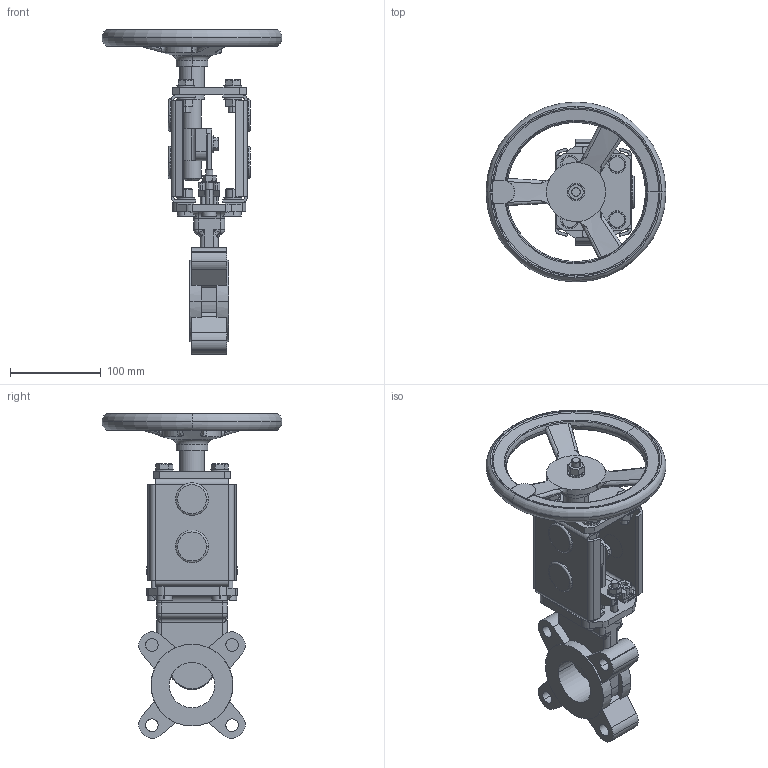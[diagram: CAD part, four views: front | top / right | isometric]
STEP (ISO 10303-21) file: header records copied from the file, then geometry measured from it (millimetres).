
FILE_DESCRIPTION(('STEP AP203'),'1');
FILE_NAME('G:/KONSTRUK/3-d block för CD/WB VALVE/HAND WHEEL/50/WB50-PN10-HW.stp','2012-11-30T12:34:37',(' '),(' '),'Spatial InterOp 3D',' ',' ');
FILE_SCHEMA(('CONFIG_CONTROL_DESIGN'));
Length unit declared in the file: millimetre
Products named in the file (7): 1; 2; 3; 4; 5; 6; 7
Bounding box: 198 x 198 x 357.02 mm (x, y, z)
Volume: 1011599.6 mm3; surface area: 273803.1 mm2
Topology: 7 solids, 15 shells, 997 faces, 2407 edges, 1512 vertices
Faces by surface type: plane 442, cylinder 260, cone 231, torus 34, bspline 26, sphere 4
Entity records: 39843 total; most frequent: CARTESIAN_POINT 16265, DIRECTION 4931, ORIENTED_EDGE 4798, EDGE_CURVE 2399, AXIS2_PLACEMENT_3D 1936, VERTEX_POINT 1512, EDGE_LOOP 1111, LINE 1059
